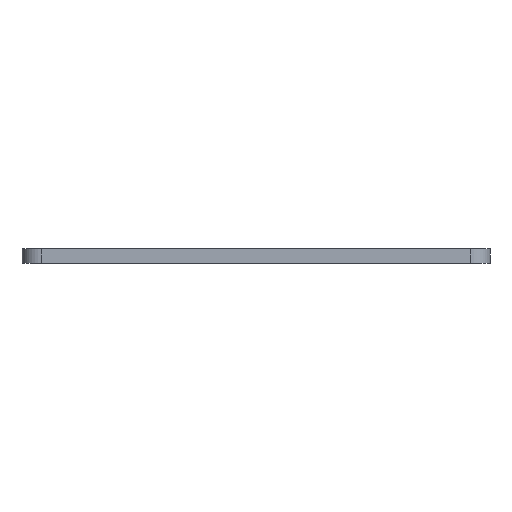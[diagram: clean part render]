
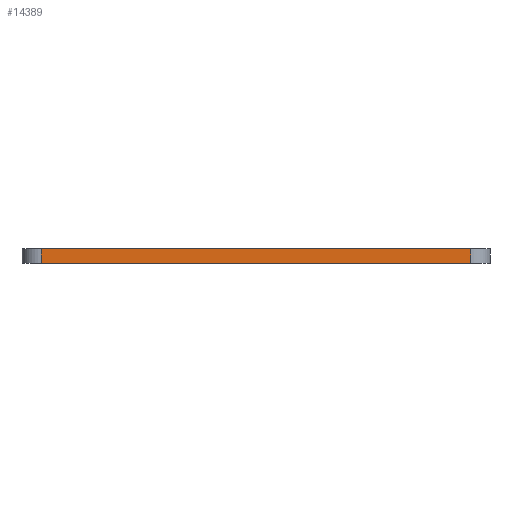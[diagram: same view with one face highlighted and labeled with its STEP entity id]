
A CAD part, left-side view. The second image highlights one B-rep face of the part: STEP entity #14389.
In plain terms, the highlighted planar face has unit normal (-1, 0, 0).
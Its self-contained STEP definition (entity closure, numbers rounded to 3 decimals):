
#1285=PLANE('',#15348);
#2073=FACE_OUTER_BOUND('',#2927,.T.);
#2927=EDGE_LOOP('',(#13339,#13340,#13341,#13342));
#4240=LINE('',#26205,#5554);
#4245=LINE('',#26256,#5559);
#4246=LINE('',#26260,#5560);
#4270=LINE('',#26352,#5584);
#5554=VECTOR('',#18261,10.);
#5559=VECTOR('',#18314,10.);
#5560=VECTOR('',#18319,10.);
#5584=VECTOR('',#18435,10.);
#7222=VERTEX_POINT('',#26202);
#7223=VERTEX_POINT('',#26204);
#7245=VERTEX_POINT('',#26254);
#7246=VERTEX_POINT('',#26258);
#9254=EDGE_CURVE('',#7223,#7222,#4240,.T.);
#9280=EDGE_CURVE('',#7245,#7222,#4245,.T.);
#9282=EDGE_CURVE('',#7223,#7246,#4246,.T.);
#9328=EDGE_CURVE('',#7246,#7245,#4270,.T.);
#13339=ORIENTED_EDGE('',*,*,#9280,.F.);
#13340=ORIENTED_EDGE('',*,*,#9328,.F.);
#13341=ORIENTED_EDGE('',*,*,#9282,.F.);
#13342=ORIENTED_EDGE('',*,*,#9254,.T.);
#14389=ADVANCED_FACE('',(#2073),#1285,.T.);
#15348=AXIS2_PLACEMENT_3D('',#26351,#18433,#18434);
#18261=DIRECTION('',(0.,1.,0.));
#18314=DIRECTION('',(0.,0.,1.));
#18319=DIRECTION('',(0.,0.,-1.));
#18433=DIRECTION('center_axis',(-1.,0.,0.));
#18434=DIRECTION('ref_axis',(0.,1.,0.));
#18435=DIRECTION('',(0.,1.,0.));
#26202=CARTESIAN_POINT('',(-12.25,11.,0.));
#26204=CARTESIAN_POINT('',(-12.25,-78.,0.));
#26205=CARTESIAN_POINT('',(-12.25,-82.,0.));
#26254=CARTESIAN_POINT('',(-12.25,11.,-3.));
#26256=CARTESIAN_POINT('',(-12.25,11.,0.));
#26258=CARTESIAN_POINT('',(-12.25,-78.,-3.));
#26260=CARTESIAN_POINT('',(-12.25,-78.,0.));
#26351=CARTESIAN_POINT('Origin',(-12.25,-82.,0.));
#26352=CARTESIAN_POINT('',(-12.25,-82.,-3.));
